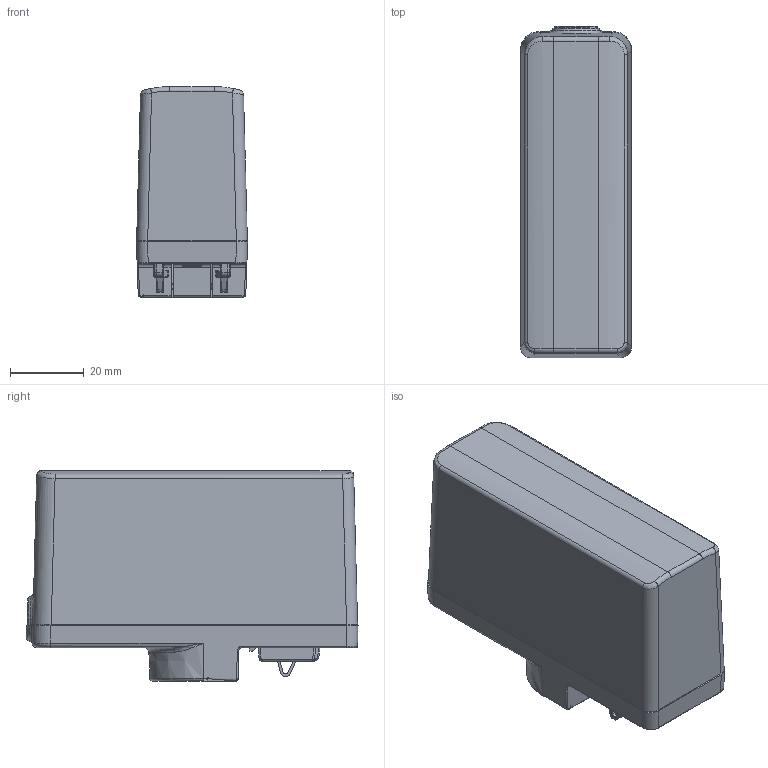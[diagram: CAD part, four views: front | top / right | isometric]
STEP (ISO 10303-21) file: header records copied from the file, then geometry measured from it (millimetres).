
FILE_DESCRIPTION((''),'2;1');
FILE_NAME('ACM18','2018-08-16T14:34:52',('jquinto'),(''),'CREO PARAMETRIC BY PTC INC, 2018100','CREO PARAMETRIC BY PTC INC, 2018100','');
FILE_SCHEMA(('CONFIG_CONTROL_DESIGN'));
Length unit declared in the file: millimetre
Products named in the file (1): ACM18
Bounding box: 30.15 x 89.95 x 57.1 mm (x, y, z)
Volume: 934.4 mm3; surface area: 36246 mm2
Topology: 3 solids, 8 shells, 1252 faces, 3427 edges, 2241 vertices
Faces by surface type: plane 762, cylinder 290, bspline 75, torus 63, cone 58, extrusion 2, sphere 2
Entity records: 42818 total; most frequent: CARTESIAN_POINT 11537, ORIENTED_EDGE 6804, DIRECTION 6021, EDGE_CURVE 3422, VECTOR 2359, LINE 2357, VERTEX_POINT 2240, AXIS2_PLACEMENT_3D 1831
